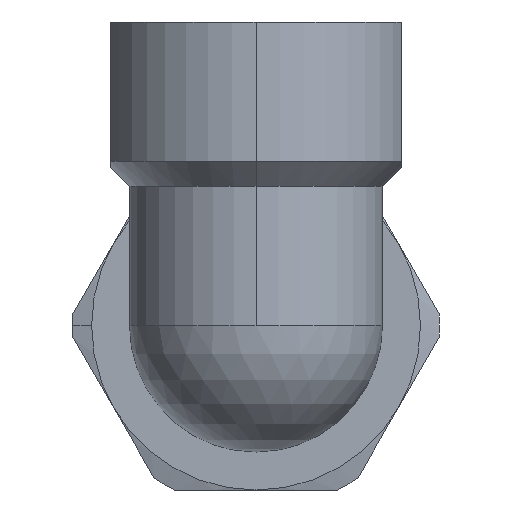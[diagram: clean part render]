
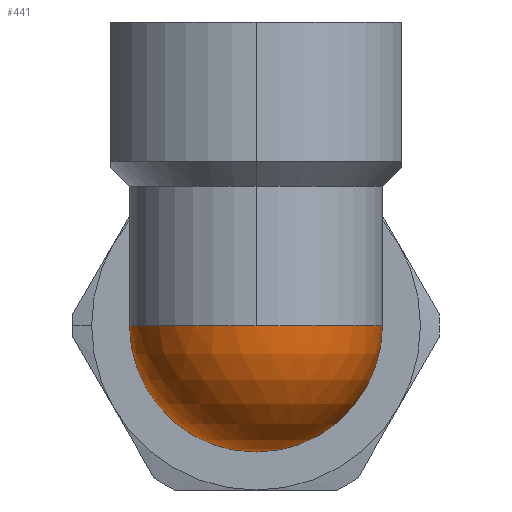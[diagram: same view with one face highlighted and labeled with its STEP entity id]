
A CAD part, left-side view. The second image highlights one B-rep face of the part: STEP entity #441.
In plain terms, the highlighted spherical face has radius 10 mm.
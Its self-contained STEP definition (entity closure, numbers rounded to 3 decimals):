
#69 = VERTEX_POINT ( 'NONE', #1082 ) ;
#70 = VERTEX_POINT ( 'NONE', #1115 ) ;
#145 = EDGE_CURVE ( 'NONE', #69, #146, #1198, .T. ) ;
#146 = VERTEX_POINT ( 'NONE', #1262 ) ;
#333 = ORIENTED_EDGE ( 'NONE', *, *, #145, .F. ) ;
#441 = ADVANCED_FACE ( 'NONE', ( #1859 ), #1877, .T. ) ;
#442 = EDGE_LOOP ( 'NONE', ( #443, #481, #333 ) ) ;
#443 = ORIENTED_EDGE ( 'NONE', *, *, #444, .F. ) ;
#444 = EDGE_CURVE ( 'NONE', #70, #69, #1768, .T. ) ;
#467 = EDGE_CURVE ( 'NONE', #146, #70, #1826, .T. ) ;
#481 = ORIENTED_EDGE ( 'NONE', *, *, #467, .F. ) ;
#1082 = CARTESIAN_POINT ( 'NONE',  ( -30., 10., 0. ) ) ;
#1115 = CARTESIAN_POINT ( 'NONE',  ( -30., -10., 0. ) ) ;
#1198 = CIRCLE ( 'NONE', #1261, 10. ) ;
#1258 = DIRECTION ( 'NONE',  ( 1., 0., 0. ) ) ;
#1259 = DIRECTION ( 'NONE',  ( 0., 0., 1. ) ) ;
#1260 = CARTESIAN_POINT ( 'NONE',  ( -30., 0., 0. ) ) ;
#1261 = AXIS2_PLACEMENT_3D ( 'NONE', #1260, #1259, #1258 ) ;
#1262 = CARTESIAN_POINT ( 'NONE',  ( -40., 0., 0. ) ) ;
#1766 = DIRECTION ( 'NONE',  ( 0., 1., 0. ) ) ;
#1767 = DIRECTION ( 'NONE',  ( 0., 0., 1. ) ) ;
#1768 = CIRCLE ( 'NONE', #1874, 10. ) ;
#1783 = DIRECTION ( 'NONE',  ( 1., 0., 0. ) ) ;
#1784 = CARTESIAN_POINT ( 'NONE',  ( -30., 0., 0. ) ) ;
#1800 = CARTESIAN_POINT ( 'NONE',  ( -30., 0., 0. ) ) ;
#1823 = DIRECTION ( 'NONE',  ( 1., 0., 0. ) ) ;
#1824 = DIRECTION ( 'NONE',  ( 0., 0., 1. ) ) ;
#1825 = AXIS2_PLACEMENT_3D ( 'NONE', #1800, #1824, #1823 ) ;
#1826 = CIRCLE ( 'NONE', #1825, 10. ) ;
#1844 = CARTESIAN_POINT ( 'NONE',  ( -30., 0., 0. ) ) ;
#1845 = AXIS2_PLACEMENT_3D ( 'NONE', #1844, #1767, #1766 ) ;
#1859 = FACE_OUTER_BOUND ( 'NONE', #442, .T. ) ;
#1873 = DIRECTION ( 'NONE',  ( 0., 1., 0. ) ) ;
#1874 = AXIS2_PLACEMENT_3D ( 'NONE', #1784, #1783, #1873 ) ;
#1877 = SPHERICAL_SURFACE ( 'NONE', #1845, 10. ) ;
